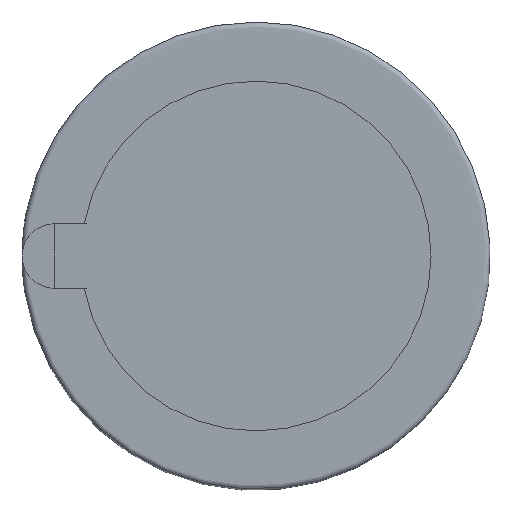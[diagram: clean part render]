
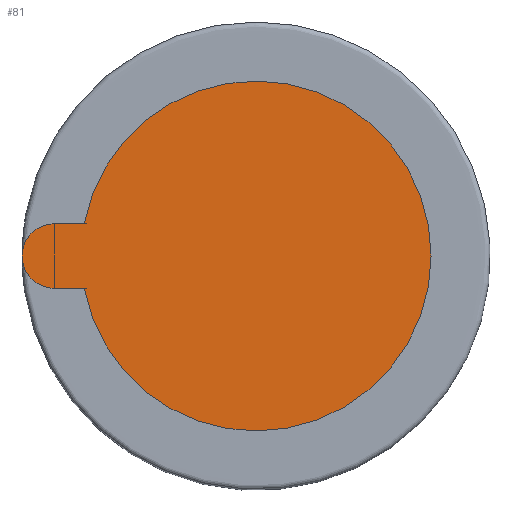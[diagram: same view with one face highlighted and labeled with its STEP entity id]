
A CAD part, top view. The second image highlights one B-rep face of the part: STEP entity #81.
In plain terms, the highlighted planar face has unit normal (0, 0, 1).
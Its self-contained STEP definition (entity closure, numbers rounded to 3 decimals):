
#81=ADVANCED_FACE('',(#169),#170,.T.);
#169=FACE_OUTER_BOUND('',#254,.T.);
#170=PLANE('',#255);
#254=EDGE_LOOP('',(#381,#382,#383,#384));
#255=AXIS2_PLACEMENT_3D('',#385,#386,#387);
#381=ORIENTED_EDGE('',*,*,#467,.F.);
#382=ORIENTED_EDGE('',*,*,#473,.F.);
#383=ORIENTED_EDGE('',*,*,#471,.F.);
#384=ORIENTED_EDGE('',*,*,#453,.F.);
#385=CARTESIAN_POINT('',(-37.5,0.0,50.));
#386=DIRECTION('',(0.0,0.0,1.0));
#387=DIRECTION('',(1.0,0.0,-0.0));
#453=EDGE_CURVE('',#514,#517,#518,.T.);
#467=EDGE_CURVE('',#537,#514,#539,.T.);
#471=EDGE_CURVE('',#517,#541,#545,.T.);
#473=EDGE_CURVE('',#541,#537,#547,.T.);
#514=VERTEX_POINT('',#589);
#517=VERTEX_POINT('',#595);
#518=LINE('',#596,#597);
#537=VERTEX_POINT('',#626);
#539=CIRCLE('',#631,32.5);
#541=VERTEX_POINT('',#633);
#545=CIRCLE('',#680,6.0);
#547=LINE('',#682,#683);
#589=CARTESIAN_POINT('',(-31.941,-6.,50.));
#595=CARTESIAN_POINT('',(-37.5,-6.,50.));
#596=CARTESIAN_POINT('',(-24.0,-6.,50.));
#597=VECTOR('',#724,1.0);
#626=CARTESIAN_POINT('',(-31.941,6.,50.));
#631=AXIS2_PLACEMENT_3D('',#738,#739,#740);
#633=CARTESIAN_POINT('',(-37.5,6.,50.));
#680=AXIS2_PLACEMENT_3D('',#742,#743,#744);
#682=CARTESIAN_POINT('',(-24.0,6.,50.));
#683=VECTOR('',#745,1.0);
#724=DIRECTION('',(-1.0,-0.0,-0.0));
#738=CARTESIAN_POINT('',(0.0,0.0,50.));
#739=DIRECTION('',(-0.0,0.,-1.0));
#740=DIRECTION('',(0.0,1.0,0.));
#742=CARTESIAN_POINT('',(-37.5,0.0,50.));
#743=DIRECTION('',(0.0,0.0,-1.0));
#744=DIRECTION('',(1.0,0.0,0.0));
#745=DIRECTION('',(1.0,0.0,0.0));
